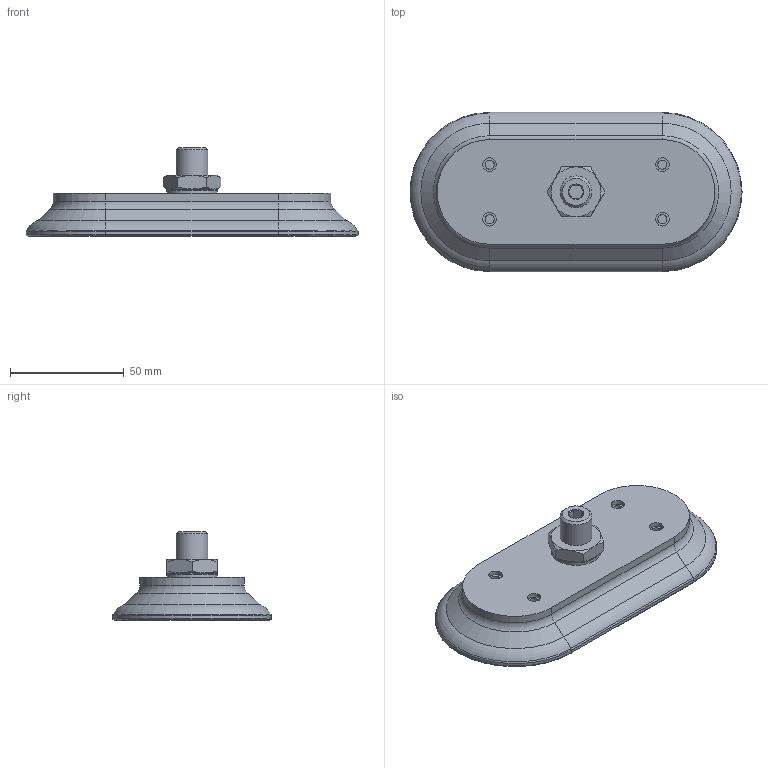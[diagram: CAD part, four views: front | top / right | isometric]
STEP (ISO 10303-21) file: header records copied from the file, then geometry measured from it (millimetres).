
FILE_DESCRIPTION(/* description */ ('Norm'),/* implementation_level */ '2;1');
FILE_NAME(/* name */ 'W:\Technik\Konstruktion\CAD-Daten\Vakuumsauger\130_\130.145x70.180\130.145x70.180-KD.stp',/* time_stamp */ '2020-08-19T13:03:05+02:00',/* author */ ('Rkob'),/* organization */ (''),/* preprocessor_version */ 'ST-DEVELOPER v17',/* originating_system */ 'Autodesk Inventor 2019',/* authorisation */ '');
FILE_SCHEMA (('AP203_CONFIGURATION_CONTROLLED_3D_DESIGN_OF_MECHANICAL_PARTS_AND_ASSEMBLIES_MIM_LF { 1 0 10303 203 3 1 4 }','AUTOMOTIVE_DESIGN { 1 0 10303 214 3 1 1 }'));
Length unit declared in the file: millimetre
Products named in the file (1): 130.145x70.180-KD_Shrinkwrap_1
Bounding box: 146 x 70 x 39 mm (x, y, z)
Volume: 132699.2 mm3; surface area: 24823.4 mm2
Topology: 1 solids, 1 shells, 99 faces, 200 edges, 115 vertices
Faces by surface type: plane 37, cylinder 28, cone 24, torus 10
Full cylindrical faces by diameter (mm): 4 x4, 6 x4, 13.16 x1, 14 x1, 19 x1, 22 x1
Entity records: 2649 total; most frequent: CARTESIAN_POINT 489, DIRECTION 451, ORIENTED_EDGE 396, EDGE_CURVE 198, AXIS2_PLACEMENT_3D 191, VERTEX_POINT 115, EDGE_LOOP 113, STYLED_ITEM 100
